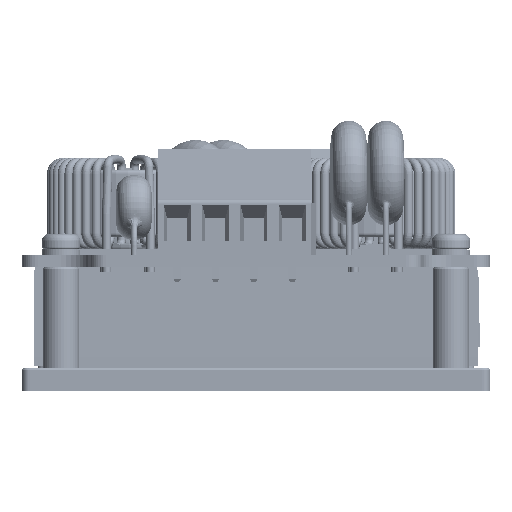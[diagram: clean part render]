
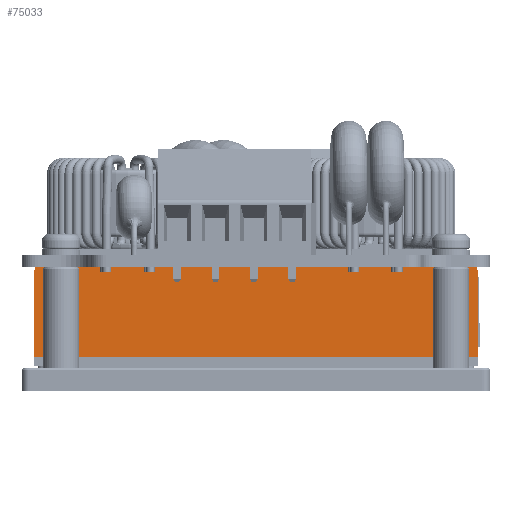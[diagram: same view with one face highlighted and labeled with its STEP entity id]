
A CAD part, left-side view. The second image highlights one B-rep face of the part: STEP entity #75033.
In plain terms, the highlighted planar face has unit normal (-1, 0, 0.009).
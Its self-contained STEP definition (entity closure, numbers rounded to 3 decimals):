
#1043 = VERTEX_POINT ( 'NONE', #82240 ) ;
#2320 = PLANE ( 'NONE',  #92240 ) ;
#5874 = VECTOR ( 'NONE', #100855, 1000. ) ;
#5923 = DIRECTION ( 'NONE',  ( -0.009, 0.009, -1. ) ) ;
#6436 = EDGE_CURVE ( 'NONE', #1043, #94085, #42790, .T. ) ;
#13114 = DIRECTION ( 'NONE',  ( 0.009, 0., 1. ) ) ;
#21343 = ORIENTED_EDGE ( 'NONE', *, *, #102648, .T. ) ;
#31363 = CARTESIAN_POINT ( 'NONE',  ( 14.316, 39.177, -13.2 ) ) ;
#39933 = LINE ( 'NONE', #31363, #5874 ) ;
#42790 = LINE ( 'NONE', #77510, #56619 ) ;
#43201 = CARTESIAN_POINT ( 'NONE',  ( 14.316, -18.723, -13.2 ) ) ;
#46765 = CARTESIAN_POINT ( 'NONE',  ( 14.316, -18.723, -13.2 ) ) ;
#49248 = LINE ( 'NONE', #83969, #106852 ) ;
#49379 = VECTOR ( 'NONE', #97292, 1000. ) ;
#49650 = EDGE_CURVE ( 'NONE', #94898, #111616, #39933, .T. ) ;
#55251 = EDGE_LOOP ( 'NONE', ( #81713, #70675, #65939, #21343 ) ) ;
#55303 = DIRECTION ( 'NONE',  ( -1., 0., 0.009 ) ) ;
#56619 = VECTOR ( 'NONE', #112247, 1000. ) ;
#61443 = LINE ( 'NONE', #96735, #49379 ) ;
#65939 = ORIENTED_EDGE ( 'NONE', *, *, #6436, .F. ) ;
#70675 = ORIENTED_EDGE ( 'NONE', *, *, #84296, .F. ) ;
#75033 = ADVANCED_FACE ( 'NONE', ( #99117 ), #2320, .T. ) ;
#77510 = CARTESIAN_POINT ( 'NONE',  ( 14.417, -18.723, -1.6 ) ) ;
#79776 = CARTESIAN_POINT ( 'NONE',  ( 14.316, 39.177, -13.2 ) ) ;
#81713 = ORIENTED_EDGE ( 'NONE', *, *, #49650, .F. ) ;
#82240 = CARTESIAN_POINT ( 'NONE',  ( 14.417, 39.076, -1.6 ) ) ;
#83969 = CARTESIAN_POINT ( 'NONE',  ( 14.32, 39.173, -12.695 ) ) ;
#84296 = EDGE_CURVE ( 'NONE', #94085, #94898, #61443, .T. ) ;
#91052 = CARTESIAN_POINT ( 'NONE',  ( 14.417, -18.622, -1.6 ) ) ;
#92240 = AXIS2_PLACEMENT_3D ( 'NONE', #46765, #55303, #13114 ) ;
#94085 = VERTEX_POINT ( 'NONE', #91052 ) ;
#94898 = VERTEX_POINT ( 'NONE', #43201 ) ;
#96735 = CARTESIAN_POINT ( 'NONE',  ( 14.316, -18.723, -13.2 ) ) ;
#97292 = DIRECTION ( 'NONE',  ( -0.009, -0.009, -1. ) ) ;
#99117 = FACE_OUTER_BOUND ( 'NONE', #55251, .T. ) ;
#100855 = DIRECTION ( 'NONE',  ( 0., 1., 0. ) ) ;
#102648 = EDGE_CURVE ( 'NONE', #1043, #111616, #49248, .T. ) ;
#106852 = VECTOR ( 'NONE', #5923, 1000. ) ;
#111616 = VERTEX_POINT ( 'NONE', #79776 ) ;
#112247 = DIRECTION ( 'NONE',  ( 0., -1., 0. ) ) ;
